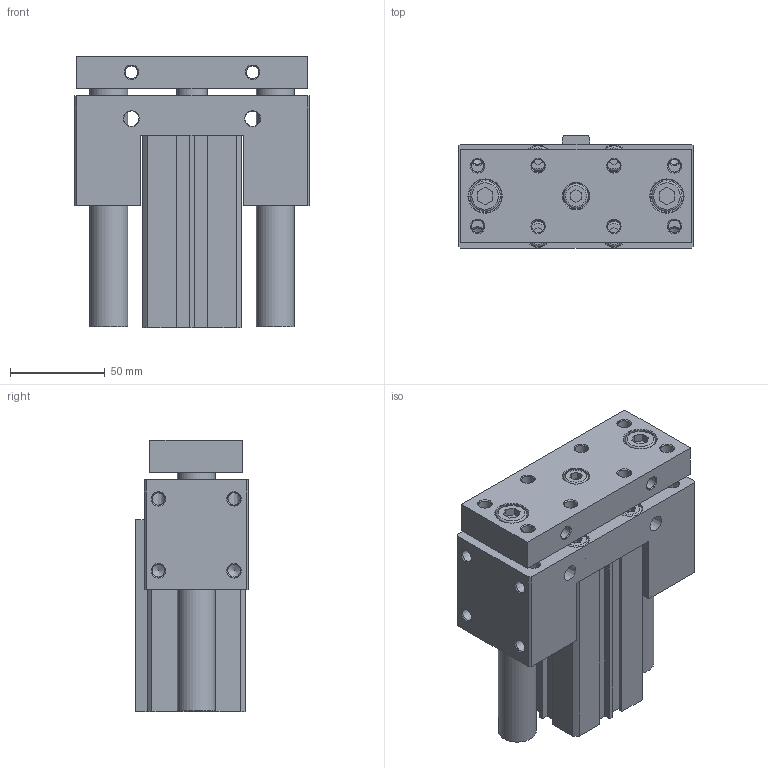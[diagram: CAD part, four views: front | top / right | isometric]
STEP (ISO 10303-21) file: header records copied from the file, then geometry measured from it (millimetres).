
FILE_DESCRIPTION((''),'2;1');
FILE_NAME('I:\3D電子目錄\氣缸\JCB\JCB\JCB40-S\JCB40x65-S.stp','2007-08-23T20:15:39',('Administrator'),(''),'Autodesk Inventor 11','Autodesk Inventor 11','');
FILE_SCHEMA(('AUTOMOTIVE_DESIGN { 1 0 10303 214 1 1 1 1 }'));
Length unit declared in the file: millimetre
Products named in the file (1): JCB40
Bounding box: 124 x 59.5 x 143.5 mm (x, y, z)
Volume: 634542.7 mm3; surface area: 135104 mm2
Topology: 3 solids, 3 shells, 303 faces, 731 edges, 473 vertices
Faces by surface type: plane 163, cylinder 52, cone 47, bspline 33, torus 8
Full cylindrical faces by diameter (mm): 2.2 x2, 6.647 x4, 6.8 x4, 10 x8, 13 x5, 14 x5, 16 x3, 17 x1, 17.5 x2, 20 x2, 23 x2, 28 x1, 29 x1, 42 x4, 44.5 x2
Entity records: 8528 total; most frequent: CARTESIAN_POINT 2090, DIRECTION 1302, ORIENTED_EDGE 1114, EDGE_CURVE 557, EDGE_LOOP 522, AXIS2_PLACEMENT_3D 480, VERTEX_POINT 435, VECTOR 342
